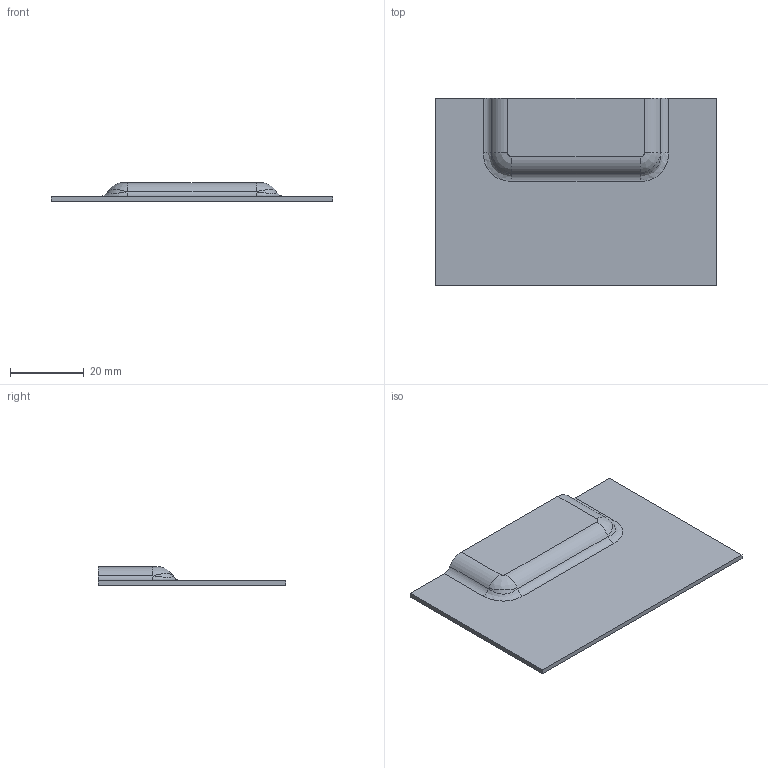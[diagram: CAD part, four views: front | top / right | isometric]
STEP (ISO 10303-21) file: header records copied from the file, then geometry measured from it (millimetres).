
FILE_DESCRIPTION((''),'1');
FILE_NAME('C:/Users/robertnolte/Desktop/824996-10.stp','2012-03-31T00:01:02',(''),(''),'Spatial Interop R21 SP3','Kubotek KeyCreator 2011 V10.5.0 (24766)',' ');
FILE_SCHEMA(('CONFIG_CONTROL_DESIGN'));
Length unit declared in the file: inch
Products named in the file (1): 1
Bounding box: 76.2 x 50.79 x 5.08 mm (x, y, z)
Volume: 5054.1 mm3; surface area: 8285.2 mm2
Topology: 1 solids, 1 shells, 32 faces, 75 edges, 44 vertices
Faces by surface type: cylinder 16, plane 8, bspline 8
Entity records: 1370 total; most frequent: CARTESIAN_POINT 643, ORIENTED_EDGE 148, DIRECTION 136, EDGE_CURVE 74, AXIS2_PLACEMENT_3D 51, VERTEX_POINT 44, LINE 34, VECTOR 34
